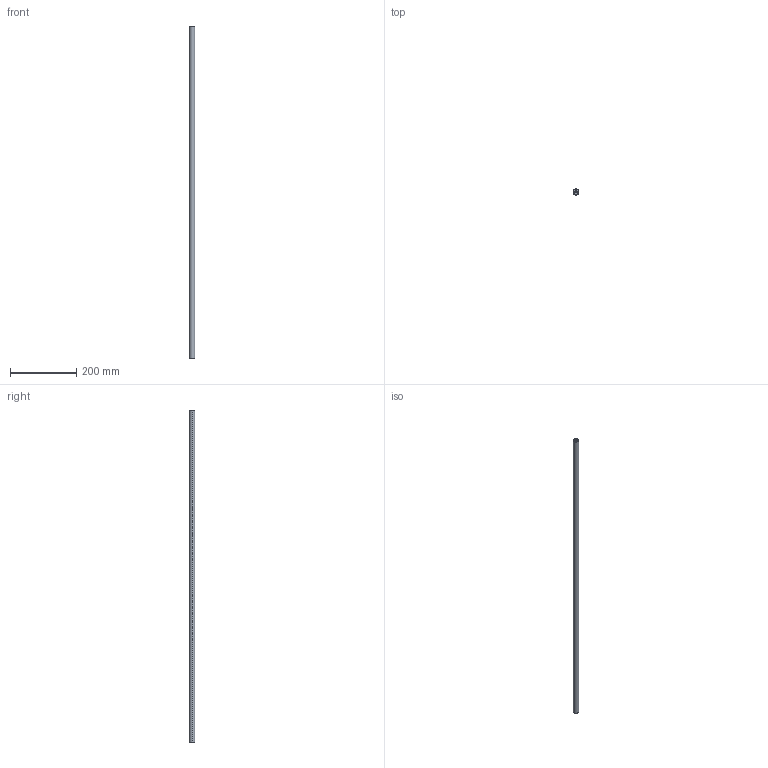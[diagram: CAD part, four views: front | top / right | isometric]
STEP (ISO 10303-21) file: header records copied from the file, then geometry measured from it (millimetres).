
FILE_DESCRIPTION((''),'2;1');
FILE_NAME('N:\Transfer\Berger Martin\Leybold\C13\17202.stp','2005-02-08T08:35:19',('PESO'),(''),'Autodesk Inventor 9','Autodesk Inventor 9','');
FILE_SCHEMA(('AUTOMOTIVE_DESIGN { 1 0 10303 214 1 1 1 1 }'));
Length unit declared in the file: millimetre
Products named in the file (1): 17202
Bounding box: 17 x 17 x 1000 mm (x, y, z)
Volume: 188495.6 mm3; surface area: 75775.2 mm2
Topology: 1 solids, 1 shells, 6 faces, 12 edges, 8 vertices
Faces by surface type: cylinder 4, plane 2
Entity records: 191 total; most frequent: DIRECTION 34, CARTESIAN_POINT 27, ORIENTED_EDGE 24, AXIS2_PLACEMENT_3D 15, EDGE_CURVE 12, VERTEX_POINT 8, CIRCLE 8, EDGE_LOOP 8
